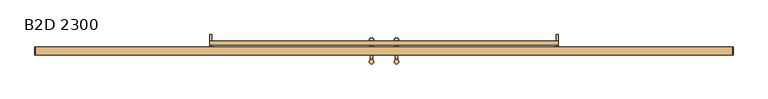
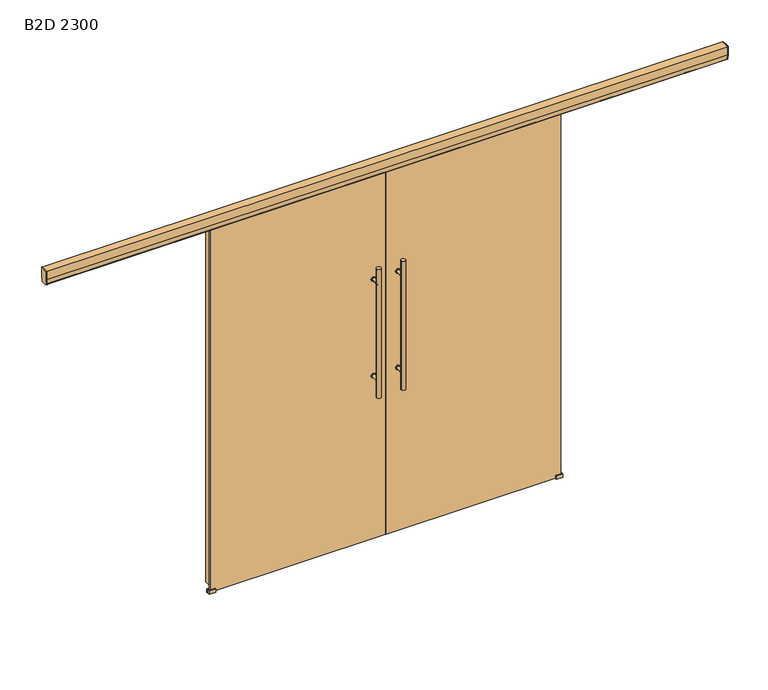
"""IFC4 building model written with IfcOpenShell, lengths in millimetres: door geometry, Mobiliário_Mobiliário de Escritório_Porta Dupla de Correr - BD_Marelli : B2D 2300."""

from ifc_helpers import new_model, si_unit, point, frame, frame_2d, origin, origin_with_axes, place, context, project, spatial, polyline, circle_curve, trimmed, segment, composite_curve, outline, extrude, source, transform, mapped, element, save


def b2d_2300_d5e7e25e(model_context):
    return source(origin(), model_context, "Body", "SweptSolid", [
        extrude(outline(polyline([(348.5735443, -30.5), (361.2735443, -30.5), (361.2735443, -100.0), (348.5735443, -100.0), (348.5735443, -30.5)])), origin_with_axes(), (0.0, 0.0, 1.0), 2275.0),
        extrude(outline(polyline([(2348.5735443, -30.5), (2348.5735443, -100.0), (2335.8735443, -100.0), (2335.8735443, -30.5), (2348.5735443, -30.5)])), origin_with_axes(), (0.0, 0.0, 1.0), 2275.0),
        extrude(outline(polyline([(1347.5540863, -129.0), (318.5735443, -129.0), (318.5735443, -119.0), (1347.5540863, -119.0), (1347.5540863, -129.0)])), frame((0.0, 0.0, 4.5), z_axis=(0.0, 0.0, 1.0), x_axis=(1.0, 0.0, 0.0)), (0.0, 0.0, 1.0), 2295.5),
        extrude(outline(polyline([(2378.5735443, -129.0), (1349.5930024, -129.0), (1349.5930024, -119.0), (2378.5735443, -119.0), (2378.5735443, -129.0)])), frame((0.0, 0.0, 4.5), z_axis=(0.0, 0.0, 1.0), x_axis=(1.0, 0.0, 0.0)), (0.0, 0.0, 1.0), 2295.5),
        extrude(outline(composite_curve([segment(trimmed(circle_curve(frame_2d((1020.0, 1276.8040863)), 12.7), [point((1020.0, 1264.1040863))], [point((1020.0, 1289.5040863))], False, "CARTESIAN"), True, "CONTINUOUS"), segment(trimmed(circle_curve(frame_2d((1020.0, 1276.8040863)), 12.7), [point((1020.0, 1289.5040863))], [point((1020.0, 1264.1040863))], False, "CARTESIAN"), True, "CONTINUOUS")], self_intersect=False)), frame((0.0, -133.0, 0.0), z_axis=(0.0, 1.0, 0.0), x_axis=(0.0, 0.0, 1.0)), (0.0, 0.0, 1.0), 18.0),
        extrude(outline(composite_curve([segment(trimmed(circle_curve(frame_2d((1020.0, 1420.3430024)), 12.7), [point((1020.0, 1433.0430024))], [point((1020.0, 1407.6430024))], False, "CARTESIAN"), True, "CONTINUOUS"), segment(trimmed(circle_curve(frame_2d((1020.0, 1420.3430024)), 12.7), [point((1020.0, 1407.6430024))], [point((1020.0, 1433.0430024))], False, "CARTESIAN"), True, "CONTINUOUS")], self_intersect=False)), frame((0.0, -133.0, 0.0), z_axis=(0.0, 1.0, 0.0), x_axis=(0.0, 0.0, 1.0)), (0.0, 0.0, 1.0), 18.0),
        extrude(outline(composite_curve([segment(trimmed(circle_curve(frame_2d((1620.0, 1276.8040863)), 12.7), [point((1620.0, 1264.1040863))], [point((1620.0, 1289.5040863))], False, "CARTESIAN"), True, "CONTINUOUS"), segment(trimmed(circle_curve(frame_2d((1620.0, 1276.8040863)), 12.7), [point((1620.0, 1289.5040863))], [point((1620.0, 1264.1040863))], False, "CARTESIAN"), True, "CONTINUOUS")], self_intersect=False)), frame((0.0, -133.0, 0.0), z_axis=(0.0, 1.0, 0.0), x_axis=(0.0, 0.0, 1.0)), (0.0, 0.0, 1.0), 18.0),
        extrude(outline(composite_curve([segment(trimmed(circle_curve(frame_2d((1620.0, 1420.3430024)), 12.7), [point((1620.0, 1433.0430024))], [point((1620.0, 1407.6430024))], False, "CARTESIAN"), True, "CONTINUOUS"), segment(trimmed(circle_curve(frame_2d((1620.0, 1420.3430024)), 12.7), [point((1620.0, 1407.6430024))], [point((1620.0, 1433.0430024))], False, "CARTESIAN"), True, "CONTINUOUS")], self_intersect=False)), frame((0.0, -133.0, 0.0), z_axis=(0.0, 1.0, 0.0), x_axis=(0.0, 0.0, 1.0)), (0.0, 0.0, 1.0), 18.0),
        extrude(outline(composite_curve([segment(trimmed(circle_curve(frame_2d((1020.0, 1276.8040863)), 8.0), [point((1020.0, 1268.8040863))], [point((1020.0, 1284.8040863))], False, "CARTESIAN"), True, "CONTINUOUS"), segment(trimmed(circle_curve(frame_2d((1020.0, 1276.8040863)), 8.0), [point((1020.0, 1284.8040863))], [point((1020.0, 1268.8040863))], False, "CARTESIAN"), True, "CONTINUOUS")], self_intersect=False)), frame((0.0, -186.2, 0.0), z_axis=(0.0, 1.0, 0.0), x_axis=(0.0, 0.0, 1.0)), (0.0, 0.0, 1.0), 124.4),
        extrude(outline(composite_curve([segment(trimmed(circle_curve(frame_2d((1020.0, 1420.3430024)), 8.0), [point((1020.0, 1428.3430024))], [point((1020.0, 1412.3430024))], False, "CARTESIAN"), True, "CONTINUOUS"), segment(trimmed(circle_curve(frame_2d((1020.0, 1420.3430024)), 8.0), [point((1020.0, 1412.3430024))], [point((1020.0, 1428.3430024))], False, "CARTESIAN"), True, "CONTINUOUS")], self_intersect=False)), frame((0.0, -186.2, 0.0), z_axis=(0.0, 1.0, 0.0), x_axis=(0.0, 0.0, 1.0)), (0.0, 0.0, 1.0), 124.4),
        extrude(outline(composite_curve([segment(trimmed(circle_curve(frame_2d((1620.0, 1276.8040863)), 8.0), [point((1620.0, 1268.8040863))], [point((1620.0, 1284.8040863))], False, "CARTESIAN"), True, "CONTINUOUS"), segment(trimmed(circle_curve(frame_2d((1620.0, 1276.8040863)), 8.0), [point((1620.0, 1284.8040863))], [point((1620.0, 1268.8040863))], False, "CARTESIAN"), True, "CONTINUOUS")], self_intersect=False)), frame((0.0, -186.2, 0.0), z_axis=(0.0, 1.0, 0.0), x_axis=(0.0, 0.0, 1.0)), (0.0, 0.0, 1.0), 124.4),
        extrude(outline(composite_curve([segment(trimmed(circle_curve(frame_2d((1620.0, 1420.3430024)), 8.0), [point((1620.0, 1428.3430024))], [point((1620.0, 1412.3430024))], False, "CARTESIAN"), True, "CONTINUOUS"), segment(trimmed(circle_curve(frame_2d((1620.0, 1420.3430024)), 8.0), [point((1620.0, 1412.3430024))], [point((1620.0, 1428.3430024))], False, "CARTESIAN"), True, "CONTINUOUS")], self_intersect=False)), frame((0.0, -186.2, 0.0), z_axis=(0.0, 1.0, 0.0), x_axis=(0.0, 0.0, 1.0)), (0.0, 0.0, 1.0), 124.4),
        extrude(outline(composite_curve([segment(trimmed(circle_curve(frame_2d((1276.8040863, -61.8)), 12.7), [point((1289.5040863, -61.8))], [point((1264.1040863, -61.8))], False, "CARTESIAN"), True, "CONTINUOUS"), segment(trimmed(circle_curve(frame_2d((1276.8040863, -61.8)), 12.7), [point((1264.1040863, -61.8))], [point((1289.5040863, -61.8))], False, "CARTESIAN"), True, "CONTINUOUS")], self_intersect=False)), frame((0.0, 0.0, 920.0), z_axis=(0.0, 0.0, 1.0), x_axis=(1.0, 0.0, 0.0)), (0.0, 0.0, 1.0), 800.0),
        extrude(outline(composite_curve([segment(trimmed(circle_curve(frame_2d((1276.8040863, -186.2)), 12.7), [point((1289.5040863, -186.2))], [point((1264.1040863, -186.2))], False, "CARTESIAN"), True, "CONTINUOUS"), segment(trimmed(circle_curve(frame_2d((1276.8040863, -186.2)), 12.7), [point((1264.1040863, -186.2))], [point((1289.5040863, -186.2))], False, "CARTESIAN"), True, "CONTINUOUS")], self_intersect=False)), frame((0.0, 0.0, 920.0), z_axis=(0.0, 0.0, 1.0), x_axis=(1.0, 0.0, 0.0)), (0.0, 0.0, 1.0), 800.0),
        extrude(outline(composite_curve([segment(trimmed(circle_curve(frame_2d((1420.3430024, -61.8)), 12.7), [point((1407.6430024, -61.8))], [point((1433.0430024, -61.8))], False, "CARTESIAN"), True, "CONTINUOUS"), segment(trimmed(circle_curve(frame_2d((1420.3430024, -61.8)), 12.7), [point((1433.0430024, -61.8))], [point((1407.6430024, -61.8))], False, "CARTESIAN"), True, "CONTINUOUS")], self_intersect=False)), frame((0.0, 0.0, 920.0), z_axis=(0.0, 0.0, 1.0), x_axis=(1.0, 0.0, 0.0)), (0.0, 0.0, 1.0), 800.0),
        extrude(outline(composite_curve([segment(trimmed(circle_curve(frame_2d((1420.3430024, -186.2)), 12.7), [point((1407.6430024, -186.2))], [point((1433.0430024, -186.2))], False, "CARTESIAN"), True, "CONTINUOUS"), segment(trimmed(circle_curve(frame_2d((1420.3430024, -186.2)), 12.7), [point((1433.0430024, -186.2))], [point((1407.6430024, -186.2))], False, "CARTESIAN"), True, "CONTINUOUS")], self_intersect=False)), frame((0.0, 0.0, 920.0), z_axis=(0.0, 0.0, 1.0), x_axis=(1.0, 0.0, 0.0)), (0.0, 0.0, 1.0), 800.0),
        extrude(outline(polyline([(-68.3, 2300.0), (-68.3, 2275.0), (-83.8, 2275.0), (-83.8, 2284.0), (-90.3, 2284.0), (-90.3, 2300.0), (-68.3, 2300.0)])), frame((348.5735443, 0.0, 0.0), z_axis=(1.0, 0.0, 0.0), x_axis=(0.0, 1.0, 0.0)), (0.0, 0.0, 1.0), 2000.0),
        extrude(outline(composite_curve([segment(polyline([(-148.0, 2350.0099534), (-100.0, 2350.0099534), (-100.0, 2300.0099534), (-103.3526316, 2270.2787193)]), True, "CONTINUOUS"), segment(trimmed(circle_curve(frame_2d((-109.9731658, 2271.7910743)), 6.7910743), [point((-103.3526316, 2270.2787193))], [point((-109.9731658, 2265.0))], False, "CARTESIAN"), True, "CONTINUOUS"), segment(polyline([(-109.9731658, 2265.0), (-138.0268342, 2265.0)]), True, "CONTINUOUS"), segment(trimmed(circle_curve(frame_2d((-138.0268342, 2271.7910743)), 6.7910743), [point((-138.0268342, 2265.0))], [point((-144.6473684, 2270.2787193))], False, "CARTESIAN"), True, "CONTINUOUS"), segment(polyline([(-144.6473684, 2270.2787193), (-148.0, 2300.0099534), (-148.0, 2350.0099534)]), True, "CONTINUOUS")], self_intersect=False)), frame((-654.4264557, 0.0, 0.0), z_axis=(1.0, 0.0, 0.0), x_axis=(0.0, 1.0, 0.0)), (0.0, 0.0, 1.0), 3.0),
        extrude(outline(composite_curve([segment(polyline([(-148.0, 2350.0), (-100.0, 2350.0), (-100.0, 2300.0), (-103.3526316, 2270.2687659)]), True, "CONTINUOUS"), segment(trimmed(circle_curve(frame_2d((-109.9731658, 2271.781121)), 6.7910743), [point((-103.3526316, 2270.2687659))], [point((-109.9731658, 2264.9900466))], False, "CARTESIAN"), True, "CONTINUOUS"), segment(polyline([(-109.9731658, 2264.9900466), (-138.0268342, 2264.9900466)]), True, "CONTINUOUS"), segment(trimmed(circle_curve(frame_2d((-138.0268342, 2271.781121)), 6.7910743), [point((-138.0268342, 2264.9900466))], [point((-144.6473684, 2270.2687659))], False, "CARTESIAN"), True, "CONTINUOUS"), segment(polyline([(-144.6473684, 2270.2687659), (-148.0, 2300.0), (-148.0, 2350.0)]), True, "CONTINUOUS")], self_intersect=False)), frame((3348.5735443, 0.0, 0.0), z_axis=(1.0, 0.0, 0.0), x_axis=(0.0, 1.0, 0.0)), (0.0, 0.0, 1.0), 3.0),
        extrude(outline(composite_curve([segment(polyline([(-148.0, 2350.0), (-100.0, 2350.0), (-100.0, 2300.0), (-103.3526316, 2270.2687659)]), True, "CONTINUOUS"), segment(trimmed(circle_curve(frame_2d((-109.9731658, 2271.781121)), 6.7910743), [point((-103.3526316, 2270.2687659))], [point((-109.9731658, 2264.9900466))], False, "CARTESIAN"), True, "CONTINUOUS"), segment(polyline([(-109.9731658, 2264.9900466), (-119.0, 2264.9900466), (-119.0, 2268.4900466), (-109.9731658, 2268.4900466)]), True, "CONTINUOUS"), segment(trimmed(circle_curve(frame_2d((-109.9731658, 2271.781121)), 3.2910743), [point((-109.9731658, 2268.4900466))], [point((-106.8045793, 2270.8916099))], True, "CARTESIAN"), True, "CONTINUOUS"), segment(polyline([(-106.8045793, 2270.8916099), (-103.5, 2300.1967147), (-103.5, 2346.5), (-144.5, 2346.5), (-144.5, 2300.1967147), (-141.1954207, 2270.8916099)]), True, "CONTINUOUS"), segment(trimmed(circle_curve(frame_2d((-138.0268342, 2271.781121)), 3.2910743), [point((-141.1954207, 2270.8916099))], [point((-138.0268342, 2268.4900466))], True, "CARTESIAN"), True, "CONTINUOUS"), segment(polyline([(-138.0268342, 2268.4900466), (-129.0, 2268.4900466), (-129.0, 2264.9900466), (-138.0268342, 2264.9900466)]), True, "CONTINUOUS"), segment(trimmed(circle_curve(frame_2d((-138.0268342, 2271.781121)), 6.7910743), [point((-138.0268342, 2264.9900466))], [point((-144.6473684, 2270.2687659))], False, "CARTESIAN"), True, "CONTINUOUS"), segment(polyline([(-144.6473684, 2270.2687659), (-148.0, 2300.0), (-148.0, 2350.0)]), True, "CONTINUOUS")], self_intersect=False)), frame((-651.4264557, 0.0, 0.0), z_axis=(1.0, 0.0, 0.0), x_axis=(0.0, 1.0, 0.0)), (0.0, 0.0, 1.0), 4000.0),
        extrude(outline(polyline([(-113.0, 22.0), (-113.0, 0.0), (-135.0, 0.0), (-135.0, 22.0), (-130.3, 22.0), (-129.5, 19.0), (-129.5, 4.5), (-118.5, 4.5), (-118.5, 19.0), (-117.7, 22.0), (-113.0, 22.0)])), frame((308.5735443, 0.0, 0.0), z_axis=(1.0, 0.0, 0.0), x_axis=(0.0, 1.0, 0.0)), (0.0, 0.0, 1.0), 40.0),
        extrude(outline(polyline([(-113.0, 22.0), (-113.0, 0.0), (-135.0, 0.0), (-135.0, 22.0), (-130.3, 22.0), (-129.5, 19.0), (-129.5, 4.5), (-118.5, 4.5), (-118.5, 19.0), (-117.7, 22.0), (-113.0, 22.0)])), frame((2348.5735443, 0.0, 0.0), z_axis=(1.0, 0.0, 0.0), x_axis=(0.0, 1.0, 0.0)), (0.0, 0.0, 1.0), 40.0),
    ])


if __name__ == "__main__":
    model = new_model("IFC4")
    model_context = context("Model", 3, world=origin())
    ifc_project = project(units=[si_unit("LENGTHUNIT", "METRE", prefix="MILLI")], contexts=[model_context])
    site = spatial("IfcSite", under=ifc_project)
    building = spatial("IfcBuilding", under=site)
    placement = place(None, origin())
    b2d_2300_shape = b2d_2300_d5e7e25e(model_context)
    element("IfcDoor", 1, ObjectType="Mobiliário_Mobiliário de Escritório_Porta Dupla de Correr - BD_Marelli : B2D 2300", at=placement, inside=building, context=model_context, shape_type="MappedRepresentation", body=[
        mapped(b2d_2300_shape, transform((0.0, 0.0, 0.0), x_axis=(1.0, 0.0, 0.0), y_axis=(0.0, 1.0, 0.0), z_axis=(0.0, 0.0, 1.0))),
    ])
    save(model, "model.ifc")
